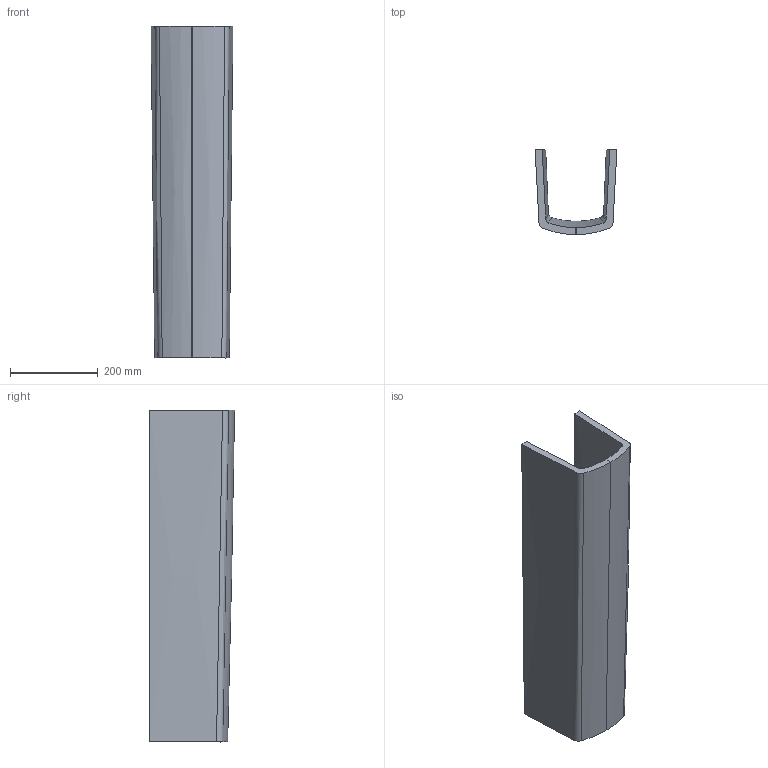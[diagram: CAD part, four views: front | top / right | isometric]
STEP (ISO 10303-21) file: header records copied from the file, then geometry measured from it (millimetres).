
FILE_DESCRIPTION(/* description */ (''),/* implementation_level */ '2;1');
FILE_NAME(/* name */ 'STSL_Sentique_5243.stp',/* time_stamp */ '2013-12-12T16:05:08+01:00',/* author */ (''),/* organization */ (''),/* preprocessor_version */ 'ST-DEVELOPER v11',/* originating_system */ 'SIEMENS PLM Software NX 7.5',/* authorisation */ '');
FILE_SCHEMA (('AUTOMOTIVE_DESIGN { 1 0 10303 214 1 1 1 1 }'));
Length unit declared in the file: millimetre
Products named in the file (1): koeb74C0on9e
Bounding box: 186.81 x 194.33 x 758.01 mm (x, y, z)
Surface area: 768191.5 mm2 (no closed solid volume)
Topology: 0 solids, 2 shells, 18 faces, 48 edges, 32 vertices
Faces by surface type: bspline 16, extrusion 2
Entity records: 817 total; most frequent: CARTESIAN_POINT 487, ORIENTED_EDGE 88, B_SPLINE_CURVE_WITH_KNOTS 50, EDGE_CURVE 48, VERTEX_POINT 32, ADVANCED_FACE 18, FACE_OUTER_BOUND 18, EDGE_LOOP 18
